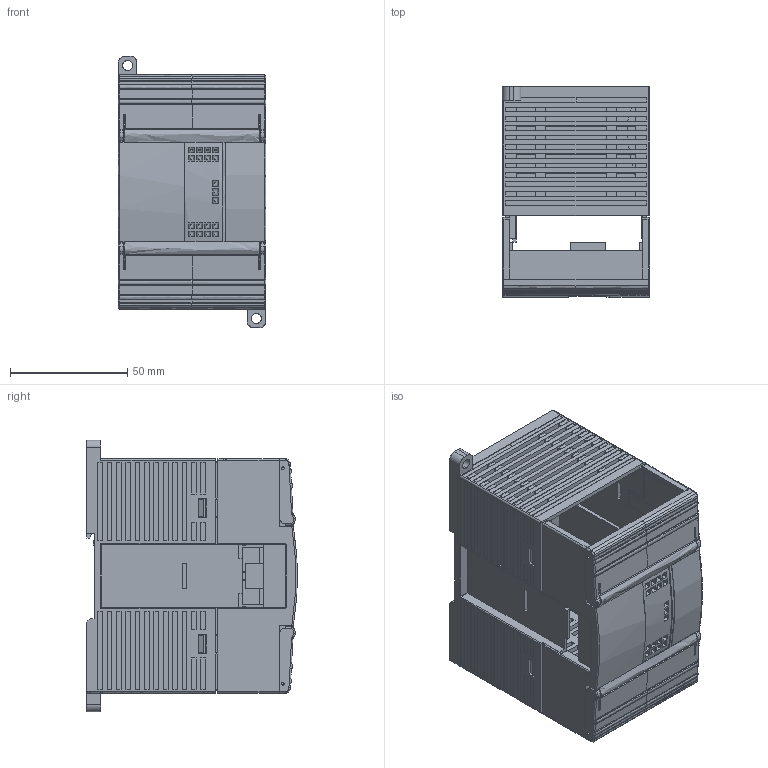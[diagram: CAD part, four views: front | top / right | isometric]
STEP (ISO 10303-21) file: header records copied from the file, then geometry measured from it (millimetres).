
FILE_DESCRIPTION(('STEP AP242'), '1');
FILE_NAME('PMP-E16YR', '2025-03-26T17:32:40', (''), ('PROMPOWER'), 'C3D Converter', 'C3D Toolkit', '');
FILE_SCHEMA(('AP242_MANAGED_MODEL_BASED_3D_ENGINEERING_MIM_LF { 1 0 10303 442 1 1 4 }'));
Length unit declared in the file: millimetre
Products named in the file (1): PMP-E16YR PROMPOWER
Bounding box: 63.05 x 89.87 x 116 mm (x, y, z)
Volume: 1908.7 mm3; surface area: 97375.8 mm2
Topology: 1 solids, 7 shells, 1677 faces, 4806 edges, 3142 vertices
Faces by surface type: plane 1257, bspline 420
Entity records: 105230 total; most frequent: CARTESIAN_POINT 52706, ORIENTED_EDGE 9422, DIRECTION 5775, EDGE_CURVE 4731, LINE 3259, VECTOR 3259, VERTEX_POINT 3118, FACE_BOUND 1921
